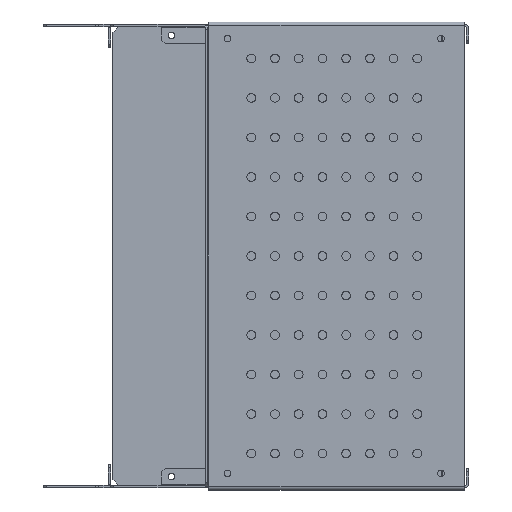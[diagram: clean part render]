
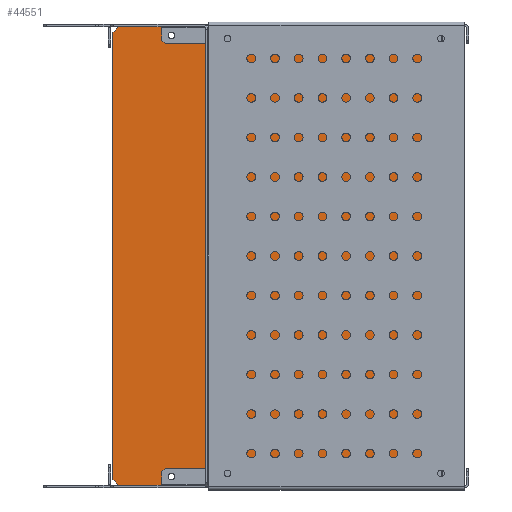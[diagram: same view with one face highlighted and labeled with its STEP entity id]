
A CAD part, front view. The second image highlights one B-rep face of the part: STEP entity #44551.
In plain terms, the highlighted planar face has unit normal (0, -1, 0) as drawn and (0, 0, 1) by its records, which use the part's own axes.
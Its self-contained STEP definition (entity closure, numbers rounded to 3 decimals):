
#43116=CARTESIAN_POINT(' ',(71.25,-139.5,0.));
#43117=VERTEX_POINT(' ',#43116);
#43131=CARTESIAN_POINT(' ',(74.,-139.5,0.));
#43136=DIRECTION(' ',(0.,-0.,1.));
#43141=DIRECTION(' ',(-1.,0.,0.));
#43146=AXIS2_PLACEMENT_3D(' ',#43131,#43136,#43141);
#43151=CIRCLE('',#43146,2.75);
#43156=CARTESIAN_POINT(' ',(76.75,-139.5,0.));
#43157=VERTEX_POINT(' ',#43156);
#43161=EDGE_CURVE(' ',#43117,#43157,#43151,.T.);
#43896=CARTESIAN_POINT(' ',(74.,-139.5,0.));
#43901=DIRECTION(' ',(0.,0.,1.));
#43906=DIRECTION(' ',(1.,0.,0.));
#43911=AXIS2_PLACEMENT_3D(' ',#43896,#43901,#43906);
#43916=CIRCLE('',#43911,2.75);
#43921=EDGE_CURVE(' ',#43157,#43117,#43916,.T.);
#43946=DIRECTION(' ',(-0.,0.,1.));
#43951=CARTESIAN_POINT(' ',(-111.,-146.5,0.));
#43956=DIRECTION(' ',(1.,0.,0.));
#43961=AXIS2_PLACEMENT_3D(' ',#43951,#43946,#43956);
#43966=PLANE('NONE',#43961);
#43971=CARTESIAN_POINT(' ',(-111.,141.5,0.));
#43976=DIRECTION(' ',(0.,-1.,0.));
#43981=VECTOR(' ',#43976,1.);
#43986=LINE('',#43971,#43981);
#43991=CARTESIAN_POINT(' ',(-111.,141.5,0.));
#43992=VERTEX_POINT(' ',#43991);
#43996=CARTESIAN_POINT(' ',(-111.,-141.5,0.));
#43997=VERTEX_POINT(' ',#43996);
#44001=EDGE_CURVE(' ',#43992,#43997,#43986,.T.);
#44006=ORIENTED_EDGE(' ',*,*,#44001,.T.);
#44011=CARTESIAN_POINT(' ',(-111.,-141.5,0.));
#44016=DIRECTION(' ',(0.707,-0.707,0.));
#44021=VECTOR(' ',#44016,1.);
#44026=LINE('',#44011,#44021);
#44031=CARTESIAN_POINT(' ',(-106.,-146.5,0.));
#44032=VERTEX_POINT(' ',#44031);
#44036=EDGE_CURVE(' ',#43997,#44032,#44026,.T.);
#44041=ORIENTED_EDGE(' ',*,*,#44036,.T.);
#44046=CARTESIAN_POINT(' ',(-106.,-146.5,0.));
#44051=DIRECTION(' ',(1.,0.,0.));
#44056=VECTOR(' ',#44051,1.);
#44061=LINE('',#44046,#44056);
#44066=CARTESIAN_POINT(' ',(106.,-146.5,0.));
#44067=VERTEX_POINT(' ',#44066);
#44071=EDGE_CURVE(' ',#44032,#44067,#44061,.T.);
#44076=ORIENTED_EDGE(' ',*,*,#44071,.T.);
#44081=CARTESIAN_POINT(' ',(106.,-146.5,0.));
#44086=DIRECTION(' ',(0.707,0.707,0.));
#44091=VECTOR(' ',#44086,1.);
#44096=LINE('',#44081,#44091);
#44101=CARTESIAN_POINT(' ',(111.,-141.5,0.));
#44102=VERTEX_POINT(' ',#44101);
#44106=EDGE_CURVE(' ',#44067,#44102,#44096,.T.);
#44111=ORIENTED_EDGE(' ',*,*,#44106,.T.);
#44116=CARTESIAN_POINT(' ',(111.,-141.5,0.));
#44121=DIRECTION(' ',(0.,1.,0.));
#44126=VECTOR(' ',#44121,1.);
#44131=LINE('',#44116,#44126);
#44136=CARTESIAN_POINT(' ',(111.,141.5,0.));
#44137=VERTEX_POINT(' ',#44136);
#44141=EDGE_CURVE(' ',#44102,#44137,#44131,.T.);
#44146=ORIENTED_EDGE(' ',*,*,#44141,.T.);
#44151=CARTESIAN_POINT(' ',(111.,141.5,0.));
#44156=DIRECTION(' ',(-0.707,0.707,0.));
#44161=VECTOR(' ',#44156,1.);
#44166=LINE('',#44151,#44161);
#44171=CARTESIAN_POINT(' ',(106.,146.5,0.));
#44172=VERTEX_POINT(' ',#44171);
#44176=EDGE_CURVE(' ',#44137,#44172,#44166,.T.);
#44181=ORIENTED_EDGE(' ',*,*,#44176,.T.);
#44186=CARTESIAN_POINT(' ',(106.,146.5,0.));
#44191=DIRECTION(' ',(-1.,0.,0.));
#44196=VECTOR(' ',#44191,1.);
#44201=LINE('',#44186,#44196);
#44206=CARTESIAN_POINT(' ',(-106.,146.5,0.));
#44207=VERTEX_POINT(' ',#44206);
#44211=EDGE_CURVE(' ',#44172,#44207,#44201,.T.);
#44216=ORIENTED_EDGE(' ',*,*,#44211,.T.);
#44221=CARTESIAN_POINT(' ',(-106.,146.5,0.));
#44226=DIRECTION(' ',(-0.707,-0.707,0.));
#44231=VECTOR(' ',#44226,1.);
#44236=LINE('',#44221,#44231);
#44241=EDGE_CURVE(' ',#44207,#43992,#44236,.T.);
#44246=ORIENTED_EDGE(' ',*,*,#44241,.T.);
#44251=EDGE_LOOP(' ',(#44006,#44041,#44076,#44111,#44146,#44181,#44216,#44246));
#44256=FACE_OUTER_BOUND(' ',#44251,.T.);
#44261=ORIENTED_EDGE(' ',*,*,#43921,.F.);
#44266=ORIENTED_EDGE(' ',*,*,#43161,.F.);
#44271=EDGE_LOOP(' ',(#44261,#44266));
#44276=FACE_BOUND(' ',#44271,.T.);
#44281=CARTESIAN_POINT(' ',(74.,139.5,0.));
#44286=DIRECTION(' ',(0.,0.,1.));
#44291=DIRECTION(' ',(1.,0.,0.));
#44296=AXIS2_PLACEMENT_3D(' ',#44281,#44286,#44291);
#44301=CIRCLE('',#44296,2.75);
#44306=CARTESIAN_POINT(' ',(76.75,139.5,0.));
#44307=VERTEX_POINT(' ',#44306);
#44311=CARTESIAN_POINT(' ',(71.25,139.5,0.));
#44312=VERTEX_POINT(' ',#44311);
#44316=EDGE_CURVE(' ',#44307,#44312,#44301,.T.);
#44321=ORIENTED_EDGE(' ',*,*,#44316,.F.);
#44326=CARTESIAN_POINT(' ',(74.,139.5,0.));
#44331=DIRECTION(' ',(0.,-0.,1.));
#44336=DIRECTION(' ',(-1.,0.,0.));
#44341=AXIS2_PLACEMENT_3D(' ',#44326,#44331,#44336);
#44346=CIRCLE('',#44341,2.75);
#44351=EDGE_CURVE(' ',#44312,#44307,#44346,.T.);
#44356=ORIENTED_EDGE(' ',*,*,#44351,.F.);
#44361=EDGE_LOOP(' ',(#44321,#44356));
#44366=FACE_BOUND(' ',#44361,.T.);
#44371=CARTESIAN_POINT(' ',(-74.,139.5,0.));
#44376=DIRECTION(' ',(0.,0.,1.));
#44381=DIRECTION(' ',(1.,0.,0.));
#44386=AXIS2_PLACEMENT_3D(' ',#44371,#44376,#44381);
#44391=CIRCLE('',#44386,2.75);
#44396=CARTESIAN_POINT(' ',(-71.25,139.5,0.));
#44397=VERTEX_POINT(' ',#44396);
#44401=CARTESIAN_POINT(' ',(-76.75,139.5,0.));
#44402=VERTEX_POINT(' ',#44401);
#44406=EDGE_CURVE(' ',#44397,#44402,#44391,.T.);
#44411=ORIENTED_EDGE(' ',*,*,#44406,.F.);
#44416=CARTESIAN_POINT(' ',(-74.,139.5,0.));
#44421=DIRECTION(' ',(0.,-0.,1.));
#44426=DIRECTION(' ',(-1.,0.,0.));
#44431=AXIS2_PLACEMENT_3D(' ',#44416,#44421,#44426);
#44436=CIRCLE('',#44431,2.75);
#44441=EDGE_CURVE(' ',#44402,#44397,#44436,.T.);
#44446=ORIENTED_EDGE(' ',*,*,#44441,.F.);
#44451=EDGE_LOOP(' ',(#44411,#44446));
#44456=FACE_BOUND(' ',#44451,.T.);
#44461=CARTESIAN_POINT(' ',(-74.,-139.5,0.));
#44466=DIRECTION(' ',(0.,0.,1.));
#44471=DIRECTION(' ',(1.,0.,0.));
#44476=AXIS2_PLACEMENT_3D(' ',#44461,#44466,#44471);
#44481=CIRCLE('',#44476,2.75);
#44486=CARTESIAN_POINT(' ',(-71.25,-139.5,0.));
#44487=VERTEX_POINT(' ',#44486);
#44491=CARTESIAN_POINT(' ',(-76.75,-139.5,0.));
#44492=VERTEX_POINT(' ',#44491);
#44496=EDGE_CURVE(' ',#44487,#44492,#44481,.T.);
#44501=ORIENTED_EDGE(' ',*,*,#44496,.F.);
#44506=CARTESIAN_POINT(' ',(-74.,-139.5,0.));
#44511=DIRECTION(' ',(0.,-0.,1.));
#44516=DIRECTION(' ',(-1.,0.,0.));
#44521=AXIS2_PLACEMENT_3D(' ',#44506,#44511,#44516);
#44526=CIRCLE('',#44521,2.75);
#44531=EDGE_CURVE(' ',#44492,#44487,#44526,.T.);
#44536=ORIENTED_EDGE(' ',*,*,#44531,.F.);
#44541=EDGE_LOOP(' ',(#44501,#44536));
#44546=FACE_BOUND(' ',#44541,.T.);
#44551=ADVANCED_FACE('NONE',(#44256,#44276,#44366,#44456,#44546),#43966,.T.);
